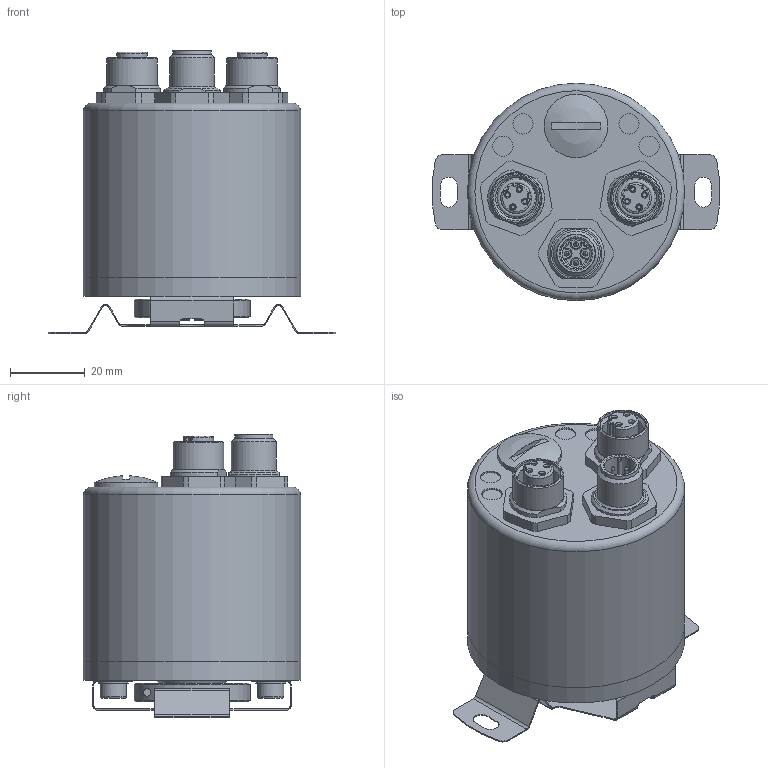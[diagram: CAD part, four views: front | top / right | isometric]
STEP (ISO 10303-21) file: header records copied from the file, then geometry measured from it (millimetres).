
FILE_DESCRIPTION( ( 'Unknown' ), '1' );
FILE_NAME( 'Z:/PJ-RD-MC/10601626_MAGRES_4/20__Produktmanagement/Datenblatt/Vereinfachte Modelle und DAB-Zeichnungen/November 2016/58/Hohlwelle/ø15/EAM580-BAE.xYxx.xxxxx.A.stp', 'Unknown', ( 'Unknown' ), ( 'Unknown' ), 'PSStep 15.0.49', 'Unknown', ' ' );
FILE_SCHEMA( ( 'AUTOMOTIVE_DESIGN { 1 0 10303 214 1 1 1 1 }' ) );
Length unit declared in the file: millimetre
Products named in the file (16): 58 H BoMo 15 vereinfacht; 11158182_vereinfacht; 11158187 vereinfacht; 11115507; 126053; 58 Haube Ethernet axial vereinfacht; 11164481 vereinfacht; 10124678; RSH4-012P4_8067A29 vereinfacht; RKH 4D_0_1 vereinfacht; EAM580-BNF.xYxx.xxxxx.A; 58 Federplatte mit Schrauben; 11115506; 110695; 116875; Assem1
Assembly tree (18 placements, depth 4):
  Assem1
    58 Federplatte mit Schrauben
      11115506
      110695  x2
      116875  x2
    EAM580-BNF.xYxx.xxxxx.A
      58 Haube Ethernet axial vereinfacht
        11164481 vereinfacht
        10124678
        RSH4-012P4_8067A29 vereinfacht
        RKH 4D_0_1 vereinfacht  x2
      58 H BoMo 15 vereinfacht
        11158182_vereinfacht
        11158187 vereinfacht
        11115507
        126053
Bounding box: 76.79 x 58 x 75.6 mm (x, y, z)
Surface area: 46192.7 mm2 (no closed solid volume)
Topology: 0 solids, 594 shells, 594 faces, 2743 edges, 2634 vertices
Faces by surface type: cylinder 246, plane 245, torus 40, cone 38, bspline 24, sphere 1
Full cylindrical faces by diameter (mm): 1 x4, 1.1 x8, 1.3 x4, 1.9 x2, 2.013 x1, 2.5 x1, 2.6 x1, 3.242 x8, 4 x2, 4.3 x4, 4.5 x1, 5.4 x4, 7 x2, 8 x2, 8.3 x1, 8.6 x2, 9.338 x2, 10.9 x1, 10.92 x2, 12 x1, 12.2 x2, 12.5 x2, 13.5 x2, 15 x1, 15.2 x2, 15.4 x1, 15.8 x1, 16.5 x1, 17 x1, 19 x2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
Entity records: 28958 total; most frequent: CARTESIAN_POINT 8019, DIRECTION 3918, VERTEX_POINT 2124, ORIENTED_EDGE 2122, EDGE_CURVE 2122, AXIS2_PLACEMENT_3D 1481, CIRCLE 998, LINE 956
